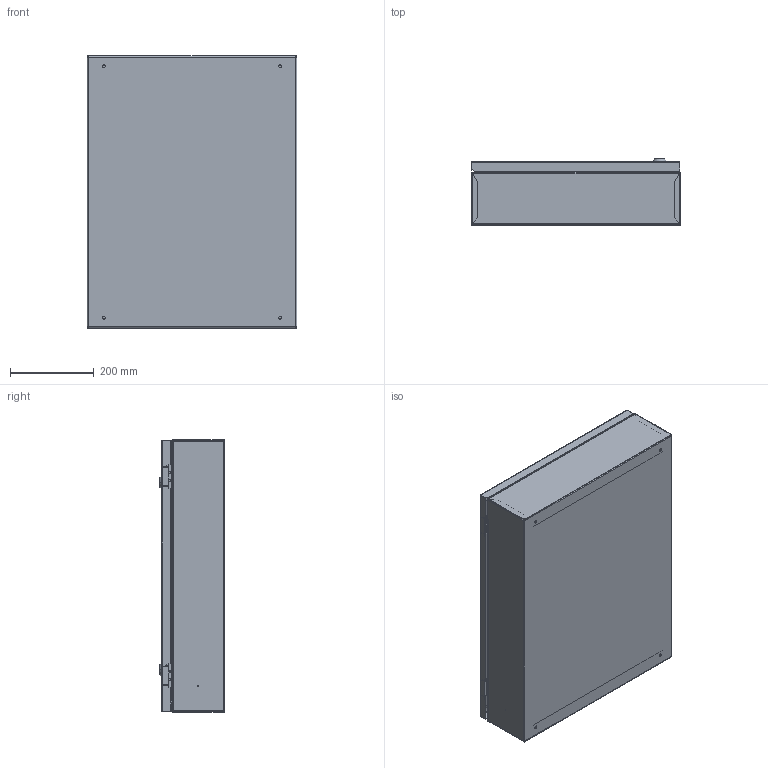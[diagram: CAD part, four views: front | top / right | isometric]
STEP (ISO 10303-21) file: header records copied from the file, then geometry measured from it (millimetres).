
FILE_DESCRIPTION (( 'STEP AP214' ), '1' );
FILE_NAME ('ÙÌÏ-3-1-650õ500õ150-IP54-ÓÕË2-ÊÝÀÇ.STEP', '2023-01-24T12:21:02', ( '' ), ( '' ), 'SwSTEP 2.0', 'SolidWorks 2018', '' );
FILE_SCHEMA (( 'AUTOMOTIVE_DESIGN' ));
Length unit declared in the file: millimetre
Products named in the file (1): ÙÌÏ-3-1-650õ500õ150-IP54-ÓÕË2-ÊÝÀÇ
Bounding box: 500 x 156.7 x 649.8 mm (x, y, z)
Surface area: 1980030.2 mm2 (no closed solid volume)
Topology: 0 solids, 34 shells, 192 faces, 656 edges, 492 vertices
Faces by surface type: plane 95, cylinder 71, bspline 10, torus 8, cone 8
Entity records: 10239 total; most frequent: CARTESIAN_POINT 2522, DIRECTION 1168, ORIENTED_EDGE 949, EDGE_CURVE 656, VERTEX_POINT 492, AXIS2_PLACEMENT_3D 392, VECTOR 384, LINE 384
